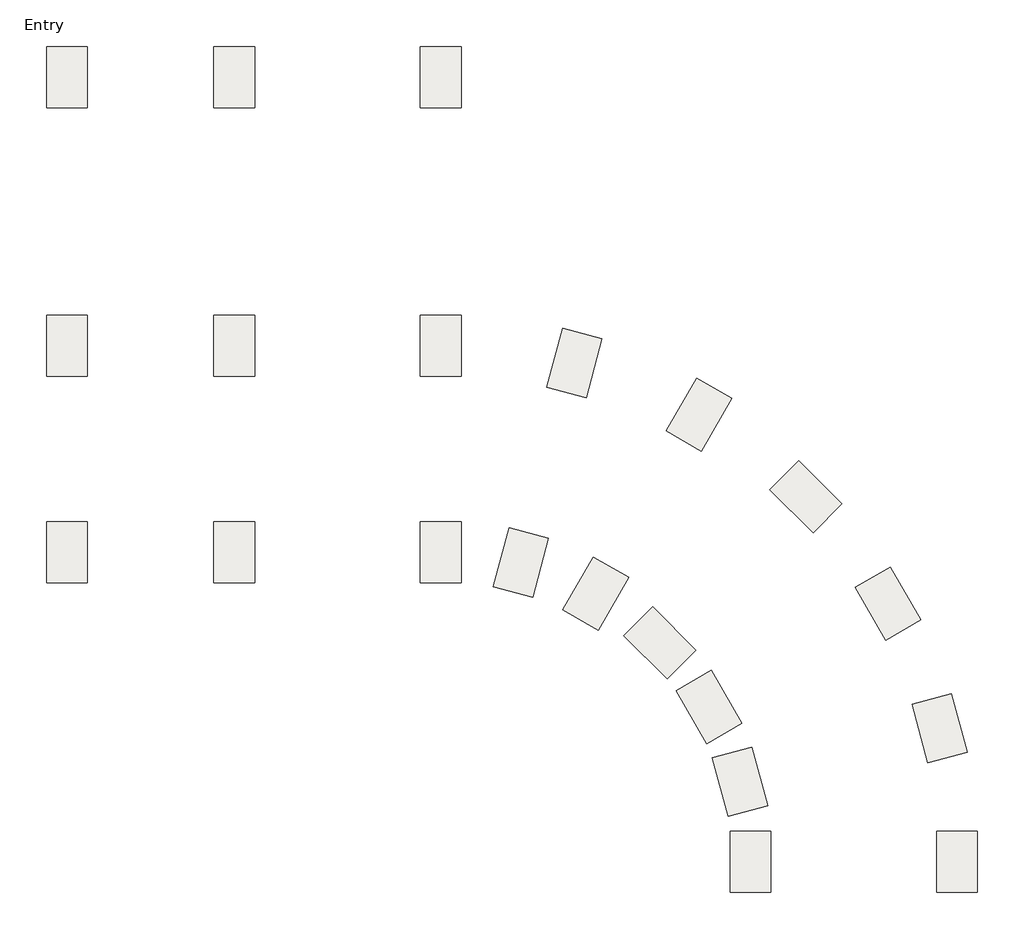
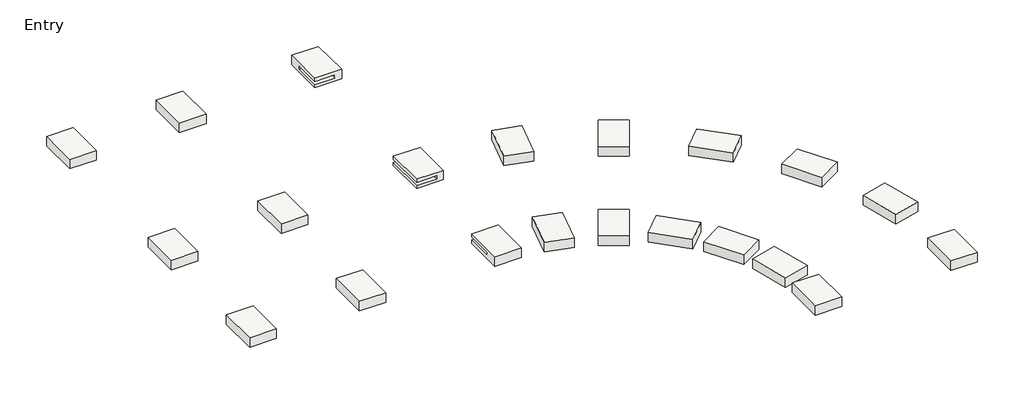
# One storey: 21 slabs.
"""IFC4 building model written with IfcOpenShell, lengths in millimetres."""

from ifc_helpers import new_model, si_unit, frame, origin, place, context, project, spatial, polyline, outline, extrude, faceted_brep, transform, mapped, element, save
from components import m_footing_rectangular_1800_x_1200_x_450mm_16ba7ea5

model = new_model("IFC4")

# Units and contexts
model_context = context("Model", 3, world=origin())
ifc_project = project(units=[si_unit("LENGTHUNIT", "METRE", prefix="MILLI")], contexts=[model_context])

# Site, building, storey
site = spatial("IfcSite", under=ifc_project)
building = spatial("IfcBuilding", under=site)
storey = spatial("IfcBuildingStorey", under=building, Name="Entry", Elevation=0.0)

# Slabs
placement = place(None, origin())
element("IfcSlab", 1, ObjectType="M_Footing-Rectangular : 1800 x 1200 x 450mm", at=placement, inside=storey, context=model_context, shape_type="Brep", body=[
    faceted_brep([(-11108.9035319, 3362.1636035, -1677.0), (-9908.9035319, 3362.1636035, -1677.0), (-9908.9035319, 5162.1636035, -1677.0), (-11108.9035319, 5162.1636035, -1677.0), (-11108.9035319, 3362.1636035, -2127.0), (-11108.9035319, 5162.1636035, -2127.0), (-9908.9035319, 5162.1636035, -2127.0), (-9908.9035319, 3362.1636035, -2127.0), (-11108.9035319, 3362.1636035, -1829.0), (-10208.9035319, 3362.1636035, -1829.0), (-10208.9035319, 3362.1636035, -1979.0), (-11108.9035319, 3362.1636035, -1979.0), (-11108.9035319, 4562.1636035, -1979.0), (-11108.9035319, 4562.1636035, -1829.0), (-10208.9035319, 4562.1636035, -1979.0), (-10208.9035319, 4562.1636035, -1829.0)], [[[0, 1, 2, 3]], [[4, 5, 6, 7]], [[1, 0, 8, 9, 10, 11, 4, 7]], [[2, 1, 7, 6]], [[3, 2, 6, 5]], [[0, 3, 5, 4, 11, 12, 13, 8]], [[14, 12, 11, 10]], [[15, 9, 8, 13]], [[15, 14, 10, 9]], [[14, 15, 13, 12]]]),
])
element("IfcSlab", 2, ObjectType="M_Footing-Rectangular : 1800 x 1200 x 450mm", at=placement, inside=storey, context=model_context, shape_type="SweptSolid", body=[
    extrude(outline(polyline([(-1677.0, -9908.9035319), (-1677.0, -11108.9035319), (-1829.0, -11108.9035319), (-1829.0, -10208.9035319), (-1979.0, -10208.9035319), (-1979.0, -11108.9035319), (-2127.0, -11108.9035319), (-2127.0, -9908.9035319), (-1677.0, -9908.9035319)])), frame((0.0, -4562.8363965, 0.0), z_axis=(0.0, 1.0, 0.0), x_axis=(0.0, 0.0, 1.0)), (0.0, 0.0, 1.0), 1800.0),
])
element("IfcSlab", 3, ObjectType="M_Footing-Rectangular : 1800 x 1200 x 450mm", at=placement, inside=storey, context=model_context, shape_type="Brep", body=[
    faceted_brep([(-9908.9035319, -8858.8363965, -1677.0), (-11108.9035319, -8858.8363965, -1677.0), (-11108.9035319, -10658.8363965, -1677.0), (-9908.9035319, -10658.8363965, -1677.0), (-9908.9035319, -8858.8363965, -2127.0), (-9908.9035319, -10658.8363965, -2127.0), (-11108.9035319, -10658.8363965, -2127.0), (-11108.9035319, -8858.8363965, -2127.0), (-11108.9035319, -8858.8363965, -1979.0), (-10208.9035319, -8858.8363965, -1979.0), (-10208.9035319, -8858.8363965, -1829.0), (-11108.9035319, -8858.8363965, -1829.0), (-11108.9035319, -10058.8363965, -1829.0), (-11108.9035319, -10058.8363965, -1979.0), (-10208.9035319, -10058.8363965, -1979.0), (-10208.9035319, -10058.8363965, -1829.0)], [[[0, 1, 2, 3]], [[4, 5, 6, 7]], [[1, 0, 4, 7, 8, 9, 10, 11]], [[2, 1, 11, 12, 13, 8, 7, 6]], [[3, 2, 6, 5]], [[0, 3, 5, 4]], [[13, 14, 9, 8]], [[10, 15, 12, 11]], [[14, 15, 10, 9]], [[15, 14, 13, 12]]]),
])
m_footing_rectangular_1800_x_1200_x_450mm_shape = m_footing_rectangular_1800_x_1200_x_450mm_16ba7ea5(model_context)
element("IfcSlab", 4, ObjectType="M_Footing-Rectangular : 1800 x 1200 x 450mm", at=placement, inside=storey, context=model_context, shape_type="MappedRepresentation", body=[
    mapped(m_footing_rectangular_1800_x_1200_x_450mm_shape, transform((4211.8060608, -14958.4341491, -1677.0), x_axis=(0.9659258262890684, 0.25881904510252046, 0.0), y_axis=(-0.25881904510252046, 0.9659258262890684, 0.0), z_axis=(0.0, 0.0, 1.0))),
])
element("IfcSlab", 5, ObjectType="M_Footing-Rectangular : 1800 x 1200 x 450mm", at=placement, inside=storey, context=model_context, shape_type="MappedRepresentation", body=[
    mapped(m_footing_rectangular_1800_x_1200_x_450mm_shape, transform((2689.3236218, -11282.8363965, -1677.0), x_axis=(0.8660254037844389, 0.4999999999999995, 0.0), y_axis=(-0.4999999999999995, 0.8660254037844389, 0.0), z_axis=(0.0, 0.0, 1.0))),
])
element("IfcSlab", 6, ObjectType="M_Footing-Rectangular : 1800 x 1200 x 450mm", at=placement, inside=storey, context=model_context, shape_type="MappedRepresentation", body=[
    mapped(m_footing_rectangular_1800_x_1200_x_450mm_shape, transform((267.4038134, -8126.5290512, -1677.0), x_axis=(0.7071067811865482, 0.7071067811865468, 0.0), y_axis=(-0.7071067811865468, 0.7071067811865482, 0.0), z_axis=(0.0, 0.0, 1.0))),
])
element("IfcSlab", 7, ObjectType="M_Footing-Rectangular : 1800 x 1200 x 450mm", at=placement, inside=storey, context=model_context, shape_type="MappedRepresentation", body=[
    mapped(m_footing_rectangular_1800_x_1200_x_450mm_shape, transform((-2888.9035319, -5704.6092428, -1677.0), x_axis=(0.8660254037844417, -0.49999999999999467, 0.0), y_axis=(0.49999999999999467, 0.8660254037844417, 0.0), z_axis=(0.0, 0.0, 1.0))),
])
element("IfcSlab", 8, ObjectType="M_Footing-Rectangular : 1800 x 1200 x 450mm", at=placement, inside=storey, context=model_context, shape_type="MappedRepresentation", body=[
    mapped(m_footing_rectangular_1800_x_1200_x_450mm_shape, transform((-6564.5012845, -4182.1268039, -1677.0), x_axis=(0.9659258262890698, -0.25881904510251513, 0.0), y_axis=(0.25881904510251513, 0.9659258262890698, 0.0), z_axis=(0.0, 0.0, 1.0))),
])
element("IfcSlab", 9, ObjectType="M_Footing-Rectangular : 1800 x 1200 x 450mm", at=placement, inside=storey, context=model_context, shape_type="MappedRepresentation", body=[
    mapped(m_footing_rectangular_1800_x_1200_x_450mm_shape, transform((-1676.4777763, -16536.1950481, -1677.0), x_axis=(-0.9659258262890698, -0.25881904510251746, 0.0), y_axis=(0.25881904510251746, -0.9659258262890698, 0.0), z_axis=(0.0, 0.0, 1.0))),
])
element("IfcSlab", 10, ObjectType="M_Footing-Rectangular : 1800 x 1200 x 450mm", at=placement, inside=storey, context=model_context, shape_type="MappedRepresentation", body=[
    mapped(m_footing_rectangular_1800_x_1200_x_450mm_shape, transform((-2589.9672396, -14330.8363965, -1677.0), x_axis=(-0.8660254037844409, -0.49999999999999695, 0.0), y_axis=(0.49999999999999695, -0.8660254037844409, 0.0), z_axis=(0.0, 0.0, 1.0))),
])
element("IfcSlab", 11, ObjectType="M_Footing-Rectangular : 1800 x 1200 x 450mm", at=placement, inside=storey, context=model_context, shape_type="MappedRepresentation", body=[
    mapped(m_footing_rectangular_1800_x_1200_x_450mm_shape, transform((-4043.1191247, -12437.0519893, -1677.0), x_axis=(0.7071067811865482, 0.7071067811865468, 0.0), y_axis=(-0.7071067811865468, 0.7071067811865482, 0.0), z_axis=(0.0, 0.0, 1.0))),
])
element("IfcSlab", 12, ObjectType="M_Footing-Rectangular : 1800 x 1200 x 450mm", at=placement, inside=storey, context=model_context, shape_type="MappedRepresentation", body=[
    mapped(m_footing_rectangular_1800_x_1200_x_450mm_shape, transform((-5936.9035319, -10983.9001043, -1677.0), x_axis=(0.8660254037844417, -0.49999999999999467, 0.0), y_axis=(0.49999999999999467, 0.8660254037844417, 0.0), z_axis=(0.0, 0.0, 1.0))),
])
element("IfcSlab", 13, ObjectType="M_Footing-Rectangular : 1800 x 1200 x 450mm", at=placement, inside=storey, context=model_context, shape_type="MappedRepresentation", body=[
    mapped(m_footing_rectangular_1800_x_1200_x_450mm_shape, transform((-8142.2621834, -10070.4106409, -1677.0), x_axis=(0.9659258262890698, -0.25881904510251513, 0.0), y_axis=(0.25881904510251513, 0.9659258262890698, 0.0), z_axis=(0.0, 0.0, 1.0))),
])
element("IfcSlab", 14, ObjectType="M_Footing-Rectangular : 1800 x 1200 x 450mm", at=placement, inside=storey, context=model_context, shape_type="MappedRepresentation", body=[
    mapped(m_footing_rectangular_1800_x_1200_x_450mm_shape, transform((4731.0964681, -18902.8363965, -1677.0), x_axis=(1.0, 0.0, 0.0), y_axis=(0.0, 1.0, 0.0), z_axis=(0.0, 0.0, 1.0))),
])
element("IfcSlab", 15, ObjectType="M_Footing-Rectangular : 1800 x 1200 x 450mm", at=placement, inside=storey, context=model_context, shape_type="MappedRepresentation", body=[
    mapped(m_footing_rectangular_1800_x_1200_x_450mm_shape, transform((-1364.9035319, -18902.8363965, -1677.0), x_axis=(1.0, 0.0, 0.0), y_axis=(0.0, 1.0, 0.0), z_axis=(0.0, 0.0, 1.0))),
])
element("IfcSlab", 16, ObjectType="M_Footing-Rectangular : 1800 x 1200 x 450mm", at=placement, inside=storey, context=model_context, shape_type="MappedRepresentation", body=[
    mapped(m_footing_rectangular_1800_x_1200_x_450mm_shape, transform((-21544.300634, -9758.8363965, -1677.0), x_axis=(-1.0, 0.0, 0.0), y_axis=(0.0, -1.0, 0.0), z_axis=(0.0, 0.0, 1.0))),
])
element("IfcSlab", 17, ObjectType="M_Footing-Rectangular : 1800 x 1200 x 450mm", at=placement, inside=storey, context=model_context, shape_type="MappedRepresentation", body=[
    mapped(m_footing_rectangular_1800_x_1200_x_450mm_shape, transform((-21544.300634, -3662.8363965, -1677.0), x_axis=(-1.0, 0.0, 0.0), y_axis=(0.0, -1.0, 0.0), z_axis=(0.0, 0.0, 1.0))),
])
element("IfcSlab", 18, ObjectType="M_Footing-Rectangular : 1800 x 1200 x 450mm", at=placement, inside=storey, context=model_context, shape_type="MappedRepresentation", body=[
    mapped(m_footing_rectangular_1800_x_1200_x_450mm_shape, transform((-21544.300634, 4262.1636035, -1677.0), x_axis=(-1.0, 0.0, 0.0), y_axis=(0.0, -1.0, 0.0), z_axis=(0.0, 0.0, 1.0))),
])
element("IfcSlab", 19, ObjectType="M_Footing-Rectangular : 1800 x 1200 x 450mm", at=placement, inside=storey, context=model_context, shape_type="MappedRepresentation", body=[
    mapped(m_footing_rectangular_1800_x_1200_x_450mm_shape, transform((-16604.9035319, -9758.8363965, -1677.0), x_axis=(-1.0, 0.0, 0.0), y_axis=(0.0, -1.0, 0.0), z_axis=(0.0, 0.0, 1.0))),
])
element("IfcSlab", 20, ObjectType="M_Footing-Rectangular : 1800 x 1200 x 450mm", at=placement, inside=storey, context=model_context, shape_type="MappedRepresentation", body=[
    mapped(m_footing_rectangular_1800_x_1200_x_450mm_shape, transform((-16604.9035319, -3662.8363965, -1677.0), x_axis=(-1.0, 0.0, 0.0), y_axis=(0.0, -1.0, 0.0), z_axis=(0.0, 0.0, 1.0))),
])
element("IfcSlab", 21, ObjectType="M_Footing-Rectangular : 1800 x 1200 x 450mm", at=placement, inside=storey, context=model_context, shape_type="MappedRepresentation", body=[
    mapped(m_footing_rectangular_1800_x_1200_x_450mm_shape, transform((-16604.9035319, 4262.1636035, -1677.0), x_axis=(-1.0, 0.0, 0.0), y_axis=(0.0, -1.0, 0.0), z_axis=(0.0, 0.0, 1.0))),
])

save(model, "model.ifc")
